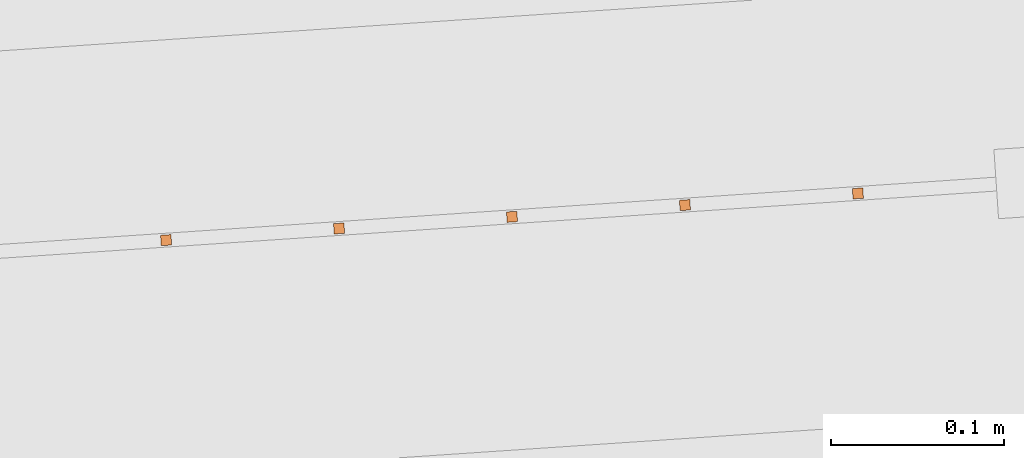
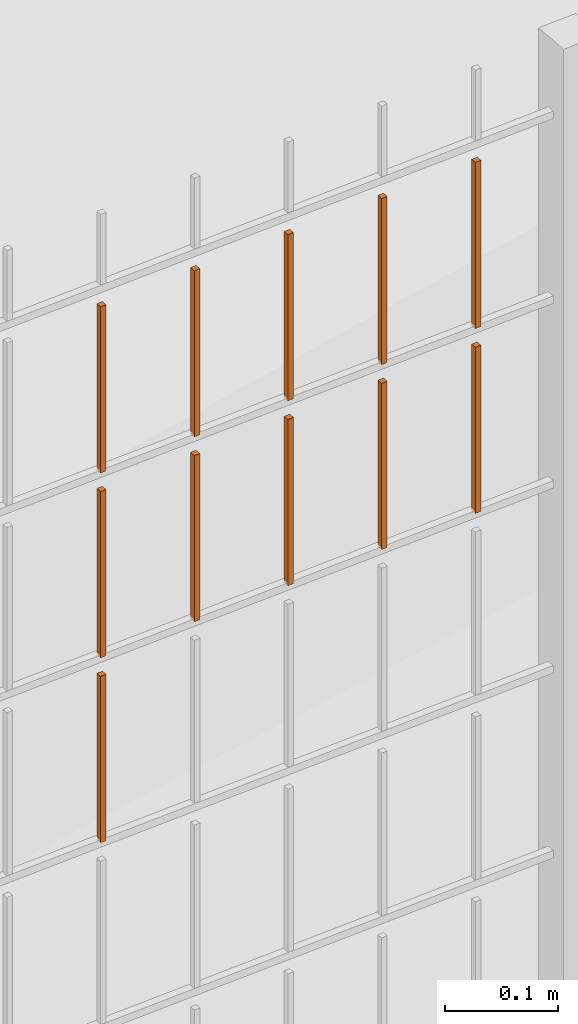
# One storey, part 105 of 1809: 11 proxies, 1 element without a shape of its own.
"""IFC2X3 building model written with IfcOpenShell, lengths in millimetres."""

from ifc_helpers import new_model, entity, si_unit, converted_unit, derived_unit, money_unit, direction, frame, origin_with_axes, place, context, subcontext, project, spatial, faceted_brep, source, transform, mapped, material, type_object, element, aggregate, save


model = new_model("IFC2X3")

# Units and contexts
model_context = context("Model", 3, precision=0.01, world=origin_with_axes(), true_north=direction((0.0, 1.0)))
body_context = subcontext(model_context, "Body", "Model", "MODEL_VIEW")
ifc_project = project(units=[si_unit("LENGTHUNIT", "METRE", prefix="MILLI"), si_unit("AREAUNIT", "SQUARE_METRE"), si_unit("VOLUMEUNIT", "CUBIC_METRE"), converted_unit("PLANEANGLEUNIT", "DEGREE", entity("IfcPlaneAngleMeasure", 0.0174532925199), si_unit("PLANEANGLEUNIT", "RADIAN"), dimensions=[0, 0, 0, 0, 0, 0, 0]), si_unit("SOLIDANGLEUNIT", "STERADIAN"), money_unit("EUR"), converted_unit("TIMEUNIT", "Year", entity("IfcTimeMeasure", 31556926.0), si_unit("TIMEUNIT", "SECOND"), dimensions=[0, 0, 1, 0, 0, 0, 0]), si_unit("MASSUNIT", "GRAM", prefix="KILO"), si_unit("THERMODYNAMICTEMPERATUREUNIT", "DEGREE_CELSIUS"), si_unit("LUMINOUSINTENSITYUNIT", "LUMEN"), si_unit("ENERGYUNIT", "JOULE", prefix="MEGA"), derived_unit("THERMALCONDUCTANCEUNIT", [(si_unit("POWERUNIT", "WATT"), 1), (si_unit("LENGTHUNIT", "METRE"), -1), (si_unit("THERMODYNAMICTEMPERATUREUNIT", "KELVIN"), -1)]), derived_unit("SPECIFICHEATCAPACITYUNIT", [(si_unit("ENERGYUNIT", "JOULE"), 1), (si_unit("MASSUNIT", "GRAM", prefix="KILO"), -1), (si_unit("THERMODYNAMICTEMPERATUREUNIT", "KELVIN"), -1)]), derived_unit("MASSDENSITYUNIT", [(si_unit("MASSUNIT", "GRAM", prefix="KILO"), 1), (si_unit("VOLUMEUNIT", "CUBIC_METRE"), -1)])], contexts=[model_context])

# Site, building, storey
site_placement = place(None, origin_with_axes())
site = spatial("IfcSite", under=ifc_project, at=site_placement, Name="Politse- ja Piirivalveameti ning Päästeameti ühishoone", CompositionType="ELEMENT")
building_placement = place(site_placement, origin_with_axes())
building = spatial("IfcBuilding", under=site, at=building_placement, Name="Politse- ja Piirivalveameti ning Päästeameti ühishoone", CompositionType="ELEMENT")
storey_placement = place(building_placement, origin_with_axes())
storey = spatial("IfcBuildingStorey", under=building, at=storey_placement, Name="Esimene korrus", CompositionType="ELEMENT", Elevation=0.0)

# Proxies
building_element_proxy_type_1 = type_object("IfcBuildingElementProxyType", Name="Railing Type", PredefinedType="NOTDEFINED")
proxy_1_placement = place(storey_placement, frame((89252.001212, -29183.4766571, 203.661247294), z_axis=(0.0, 0.0, 1.0), x_axis=(1.0, 0.0, 0.0)))
proxy_1 = element("IfcBuildingElementProxy", 1, at=proxy_1_placement, inside=storey, type_object=building_element_proxy_type_1, Name="PIIRDEAED")
ifc_material = material(Name="ET-03_Raud")
building_element_proxy_type_2 = type_object("IfcBuildingElementProxyType", Name="IfcBuildingElementProxy", PredefinedType="NOTDEFINED")
shared_shape_1 = source(origin_with_axes(), body_context, "Body", "Brep", [
    faceted_brep([(3.0, 3.0, -0.000752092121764), (-3.0, 3.0, -0.000752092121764), (-3.0, 3.0, 179.99926046), (3.0, 3.0, 179.99926046), (3.0, -3.0, 0.000752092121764), (-3.0, -3.0, 0.000752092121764), (-3.0, -3.0, 180.000764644), (3.0, -3.0, 180.000764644)], [[[0, 1, 2, 3]], [[0, 4, 5, 1]], [[1, 5, 6, 2]], [[3, 2, 6, 7]], [[4, 0, 3, 7]], [[5, 4, 7, 6]]]),
])
proxy_2_placement = place(proxy_1_placement, frame((-95010.1929734, -23715.3547414, 1603.36130491), z_axis=(0.0, 0.0, 1.0), x_axis=(1.0, 0.0, 0.0)))
proxy_2 = element("IfcBuildingElementProxy", 2, at=proxy_2_placement, type_object=building_element_proxy_type_2, material=ifc_material, Name="BALUSTER - 001", context=body_context, shape_type="MappedRepresentation", body=[
    mapped(shared_shape_1, transform((0.0, 0.0, 0.0), x_axis=(-0.0673926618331, 0.997726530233, 0.0), y_axis=(-0.997726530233, -0.0673926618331, 0.0), z_axis=(0.0, 0.0, 1.0))),
])
shared_shape_2 = source(origin_with_axes(), body_context, "Body", "Brep", [
    faceted_brep([(3.0, 3.0, -0.000752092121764), (-3.0, 3.0, -0.000752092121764), (-3.0, 3.0, 179.99926046), (3.0, 3.0, 179.99926046), (3.0, -3.0, 0.000752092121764), (-3.0, -3.0, 0.000752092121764), (-3.0, -3.0, 180.000764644), (3.0, -3.0, 180.000764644)], [[[0, 1, 2, 3]], [[0, 4, 5, 1]], [[1, 5, 6, 2]], [[3, 2, 6, 7]], [[4, 0, 3, 7]], [[5, 4, 7, 6]]]),
])
proxy_3_placement = place(proxy_1_placement, frame((-95109.9656264, -23722.0940076, 1803.33623517), z_axis=(0.0, 0.0, 1.0), x_axis=(1.0, 0.0, 0.0)))
proxy_3 = element("IfcBuildingElementProxy", 3, at=proxy_3_placement, type_object=building_element_proxy_type_2, material=ifc_material, Name="BALUSTER - 001", context=body_context, shape_type="MappedRepresentation", body=[
    mapped(shared_shape_2, transform((0.0, 0.0, 0.0), x_axis=(-0.0673926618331, 0.997726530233, 0.0), y_axis=(-0.997726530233, -0.0673926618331, 0.0), z_axis=(0.0, 0.0, 1.0))),
])
shared_shape_3 = source(origin_with_axes(), body_context, "Body", "Brep", [
    faceted_brep([(3.0, 3.0, -0.000752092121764), (-3.0, 3.0, -0.000752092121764), (-3.0, 3.0, 179.99926046), (3.0, 3.0, 179.99926046), (3.0, -3.0, 0.000752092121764), (-3.0, -3.0, 0.000752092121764), (-3.0, -3.0, 180.000764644), (3.0, -3.0, 180.000764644)], [[[0, 1, 2, 3]], [[0, 4, 5, 1]], [[1, 5, 6, 2]], [[3, 2, 6, 7]], [[4, 0, 3, 7]], [[5, 4, 7, 6]]]),
])
proxy_4_placement = place(proxy_1_placement, frame((-94810.6476673, -23701.8762091, 1803.41144438), z_axis=(0.0, 0.0, 1.0), x_axis=(1.0, 0.0, 0.0)))
proxy_4 = element("IfcBuildingElementProxy", 4, at=proxy_4_placement, type_object=building_element_proxy_type_2, material=ifc_material, Name="BALUSTER - 001", context=body_context, shape_type="MappedRepresentation", body=[
    mapped(shared_shape_3, transform((0.0, 0.0, 0.0), x_axis=(-0.0673926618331, 0.997726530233, 0.0), y_axis=(-0.997726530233, -0.0673926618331, 0.0), z_axis=(0.0, 0.0, 1.0))),
])
shared_shape_4 = source(origin_with_axes(), body_context, "Body", "Brep", [
    faceted_brep([(3.0, 3.0, -0.000752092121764), (-3.0, 3.0, -0.000752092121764), (-3.0, 3.0, 179.99926046), (3.0, 3.0, 179.99926046), (3.0, -3.0, 0.000752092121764), (-3.0, -3.0, 0.000752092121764), (-3.0, -3.0, 180.000764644), (3.0, -3.0, 180.000764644)], [[[0, 1, 2, 3]], [[0, 4, 5, 1]], [[1, 5, 6, 2]], [[3, 2, 6, 7]], [[4, 0, 3, 7]], [[5, 4, 7, 6]]]),
])
proxy_5_placement = place(proxy_1_placement, frame((-94910.4203204, -23708.6154752, 1803.38637465), z_axis=(0.0, 0.0, 1.0), x_axis=(1.0, 0.0, 0.0)))
proxy_5 = element("IfcBuildingElementProxy", 5, at=proxy_5_placement, type_object=building_element_proxy_type_2, material=ifc_material, Name="BALUSTER - 001", context=body_context, shape_type="MappedRepresentation", body=[
    mapped(shared_shape_4, transform((0.0, 0.0, 0.0), x_axis=(-0.0673926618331, 0.997726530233, 0.0), y_axis=(-0.997726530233, -0.0673926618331, 0.0), z_axis=(0.0, 0.0, 1.0))),
])
shared_shape_5 = source(origin_with_axes(), body_context, "Body", "Brep", [
    faceted_brep([(3.0, 3.0, -0.000752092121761), (-3.0, 3.0, -0.000752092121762), (-3.0, 3.0, 179.99926046), (3.0, 3.0, 179.99926046), (3.0, -3.0, 0.000752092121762), (-3.0, -3.0, 0.000752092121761), (-3.0, -3.0, 180.000764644), (3.0, -3.0, 180.000764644)], [[[0, 1, 2, 3]], [[0, 4, 5, 1]], [[1, 5, 6, 2]], [[3, 2, 6, 7]], [[4, 0, 3, 7]], [[5, 4, 7, 6]]]),
])
proxy_6_placement = place(proxy_1_placement, frame((-95010.1929734, -23715.3547414, 1803.36130491), z_axis=(0.0, 0.0, 1.0), x_axis=(1.0, 0.0, 0.0)))
proxy_6 = element("IfcBuildingElementProxy", 6, at=proxy_6_placement, type_object=building_element_proxy_type_2, material=ifc_material, Name="BALUSTER - 001", context=body_context, shape_type="MappedRepresentation", body=[
    mapped(shared_shape_5, transform((0.0, 0.0, 0.0), x_axis=(-0.0673926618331, 0.997726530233, 0.0), y_axis=(-0.997726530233, -0.0673926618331, 0.0), z_axis=(0.0, 0.0, 1.0))),
])
shared_shape_6 = source(origin_with_axes(), body_context, "Body", "Brep", [
    faceted_brep([(3.0, 3.0, -0.000752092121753), (-3.0, 3.0, -0.000752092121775), (-3.0, 3.0, 179.99926046), (3.0, 3.0, 179.99926046), (3.0, -3.0, 0.000752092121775), (-3.0, -3.0, 0.000752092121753), (-3.0, -3.0, 180.000764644), (3.0, -3.0, 180.000764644)], [[[0, 1, 2, 3]], [[0, 4, 5, 1]], [[1, 5, 6, 2]], [[3, 2, 6, 7]], [[4, 0, 3, 7]], [[5, 4, 7, 6]]]),
])
proxy_7_placement = place(proxy_1_placement, frame((-94710.8750143, -23695.1369429, 1803.43651412), z_axis=(0.0, 0.0, 1.0), x_axis=(1.0, 0.0, 0.0)))
proxy_7 = element("IfcBuildingElementProxy", 7, at=proxy_7_placement, type_object=building_element_proxy_type_2, material=ifc_material, Name="BALUSTER - 001", context=body_context, shape_type="MappedRepresentation", body=[
    mapped(shared_shape_6, transform((0.0, 0.0, 0.0), x_axis=(-0.0673926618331, 0.997726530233, 0.0), y_axis=(-0.997726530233, -0.0673926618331, 0.0), z_axis=(0.0, 0.0, 1.0))),
])
shared_shape_7 = source(origin_with_axes(), body_context, "Body", "Brep", [
    faceted_brep([(3.0, 3.0, -0.000752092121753), (-3.0, 3.0, -0.000752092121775), (-3.0, 3.0, 179.99926046), (3.0, 3.0, 179.99926046), (3.0, -3.0, 0.000752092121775), (-3.0, -3.0, 0.000752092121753), (-3.0, -3.0, 180.000764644), (3.0, -3.0, 180.000764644)], [[[0, 1, 2, 3]], [[0, 4, 5, 1]], [[1, 5, 6, 2]], [[3, 2, 6, 7]], [[4, 0, 3, 7]], [[5, 4, 7, 6]]]),
])
proxy_8_placement = place(proxy_1_placement, frame((-94710.8750143, -23695.1369429, 1603.43651412), z_axis=(0.0, 0.0, 1.0), x_axis=(1.0, 0.0, 0.0)))
proxy_8 = element("IfcBuildingElementProxy", 8, at=proxy_8_placement, type_object=building_element_proxy_type_2, material=ifc_material, Name="BALUSTER - 001", context=body_context, shape_type="MappedRepresentation", body=[
    mapped(shared_shape_7, transform((0.0, 0.0, 0.0), x_axis=(-0.0673926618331, 0.997726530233, 0.0), y_axis=(-0.997726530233, -0.0673926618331, 0.0), z_axis=(0.0, 0.0, 1.0))),
])
shared_shape_8 = source(origin_with_axes(), body_context, "Body", "Brep", [
    faceted_brep([(3.0, 3.0, -0.000752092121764), (-3.0, 3.0, -0.000752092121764), (-3.0, 3.0, 179.99926046), (3.0, 3.0, 179.99926046), (3.0, -3.0, 0.000752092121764), (-3.0, -3.0, 0.000752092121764), (-3.0, -3.0, 180.000764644), (3.0, -3.0, 180.000764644)], [[[0, 1, 2, 3]], [[0, 4, 5, 1]], [[1, 5, 6, 2]], [[3, 2, 6, 7]], [[4, 0, 3, 7]], [[5, 4, 7, 6]]]),
])
proxy_9_placement = place(proxy_1_placement, frame((-94810.6476673, -23701.8762091, 1603.41144438), z_axis=(0.0, 0.0, 1.0), x_axis=(1.0, 0.0, 0.0)))
proxy_9 = element("IfcBuildingElementProxy", 9, at=proxy_9_placement, type_object=building_element_proxy_type_2, material=ifc_material, Name="BALUSTER - 001", context=body_context, shape_type="MappedRepresentation", body=[
    mapped(shared_shape_8, transform((0.0, 0.0, 0.0), x_axis=(-0.0673926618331, 0.997726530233, 0.0), y_axis=(-0.997726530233, -0.0673926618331, 0.0), z_axis=(0.0, 0.0, 1.0))),
])
shared_shape_9 = source(origin_with_axes(), body_context, "Body", "Brep", [
    faceted_brep([(3.0, 3.0, -0.000752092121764), (-3.0, 3.0, -0.000752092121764), (-3.0, 3.0, 179.99926046), (3.0, 3.0, 179.99926046), (3.0, -3.0, 0.000752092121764), (-3.0, -3.0, 0.000752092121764), (-3.0, -3.0, 180.000764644), (3.0, -3.0, 180.000764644)], [[[0, 1, 2, 3]], [[0, 4, 5, 1]], [[1, 5, 6, 2]], [[3, 2, 6, 7]], [[4, 0, 3, 7]], [[5, 4, 7, 6]]]),
])
proxy_10_placement = place(proxy_1_placement, frame((-94910.4203204, -23708.6154752, 1603.38637465), z_axis=(0.0, 0.0, 1.0), x_axis=(1.0, 0.0, 0.0)))
proxy_10 = element("IfcBuildingElementProxy", 10, at=proxy_10_placement, type_object=building_element_proxy_type_2, material=ifc_material, Name="BALUSTER - 001", context=body_context, shape_type="MappedRepresentation", body=[
    mapped(shared_shape_9, transform((0.0, 0.0, 0.0), x_axis=(-0.0673926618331, 0.997726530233, 0.0), y_axis=(-0.997726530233, -0.0673926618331, 0.0), z_axis=(0.0, 0.0, 1.0))),
])
shared_shape_10 = source(origin_with_axes(), body_context, "Body", "Brep", [
    faceted_brep([(3.0, 3.0, -0.000752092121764), (-3.0, 3.0, -0.000752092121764), (-3.0, 3.0, 179.99926046), (3.0, 3.0, 179.99926046), (3.0, -3.0, 0.000752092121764), (-3.0, -3.0, 0.000752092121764), (-3.0, -3.0, 180.000764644), (3.0, -3.0, 180.000764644)], [[[0, 1, 2, 3]], [[0, 4, 5, 1]], [[1, 5, 6, 2]], [[3, 2, 6, 7]], [[4, 0, 3, 7]], [[5, 4, 7, 6]]]),
])
proxy_11_placement = place(proxy_1_placement, frame((-95109.9656264, -23722.0940076, 1403.33623517), z_axis=(0.0, 0.0, 1.0), x_axis=(1.0, 0.0, 0.0)))
proxy_11 = element("IfcBuildingElementProxy", 11, at=proxy_11_placement, type_object=building_element_proxy_type_2, material=ifc_material, Name="BALUSTER - 001", context=body_context, shape_type="MappedRepresentation", body=[
    mapped(shared_shape_10, transform((0.0, 0.0, 0.0), x_axis=(-0.0673926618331, 0.997726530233, 0.0), y_axis=(-0.997726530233, -0.0673926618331, 0.0), z_axis=(0.0, 0.0, 1.0))),
])
proxy_12_placement = place(proxy_1_placement, frame((-95109.9656264, -23722.0940076, 1603.33623517), z_axis=(0.0, 0.0, 1.0), x_axis=(1.0, 0.0, 0.0)))
proxy_12 = element("IfcBuildingElementProxy", 12, at=proxy_12_placement, type_object=building_element_proxy_type_2, material=ifc_material, Name="BALUSTER - 001", context=body_context, shape_type="MappedRepresentation", body=[
    mapped(shared_shape_10, transform((0.0, 0.0, 0.0), x_axis=(-0.0673926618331, 0.997726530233, 0.0), y_axis=(-0.997726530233, -0.0673926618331, 0.0), z_axis=(0.0, 0.0, 1.0))),
])
aggregate(proxy_1, [proxy_11, proxy_8, proxy_9, proxy_10, proxy_2, proxy_12, proxy_7, proxy_4, proxy_5, proxy_6, proxy_3])

save(model, "model.ifc")
